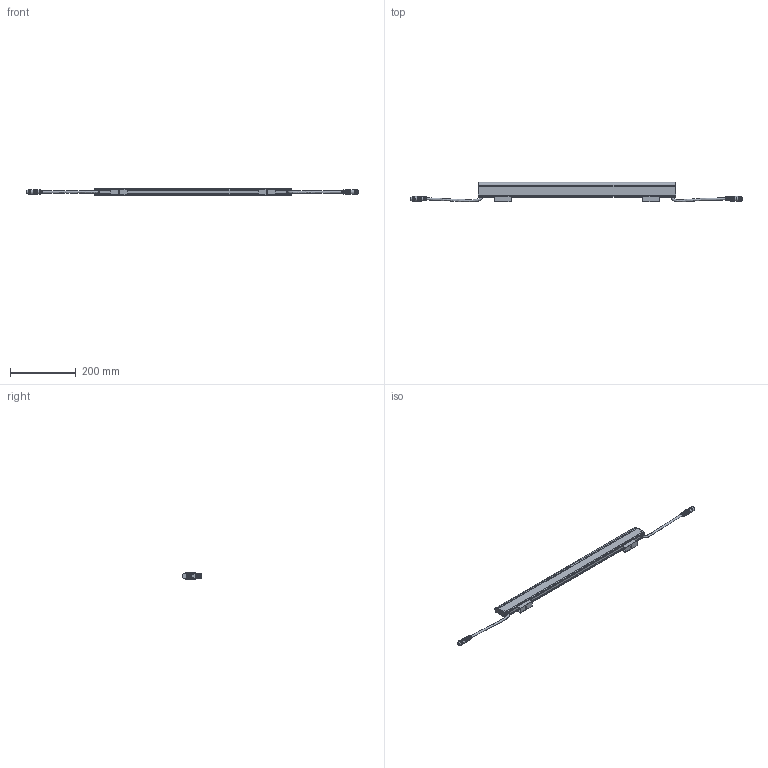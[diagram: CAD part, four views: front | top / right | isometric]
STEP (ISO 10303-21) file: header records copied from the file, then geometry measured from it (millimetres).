
FILE_DESCRIPTION (( 'STEP AP214' ), '1' );
FILE_NAME ('DiGi Linear V-Series L600 Round.STEP', '2025-07-22T11:41:59', ( '' ), ( '' ), 'SwSTEP 2.0', 'SolidWorks 2025', '' );
FILE_SCHEMA (( 'AUTOMOTIVE_DESIGN' ));
Length unit declared in the file: millimetre
Products named in the file (7): M12 3p Male; DiGi Linear V-serie - Clip; Counter sunk screw torx_M2x6; DiGi Linear V-Series L600 Round; DiGi Linear V-serie - Cabling_L600; DiGi Linear V-serie - Body_L600 Round; M12 3p Female
Assembly tree (10 placements, depth 2):
  DiGi Linear V-Series L600 Round
    DiGi Linear V-serie - Body_L600 Round
    DiGi Linear V-serie - Clip  x2
    M12 3p Male
    M12 3p Female
    DiGi Linear V-serie - Cabling_L600
    Counter sunk screw torx_M2x6  x4
Bounding box: 1007.4 x 59.99 x 18.3 mm (x, y, z)
Volume: 469630.3 mm3; surface area: 107149.2 mm2
Topology: 13 solids, 13 shells, 1274 faces, 3201 edges, 2000 vertices
Faces by surface type: plane 490, cylinder 349, bspline 184, torus 163, cone 80, sphere 8
Full cylindrical faces by diameter (mm): 2 x4, 2.4 x4, 3 x4, 6.5 x6, 9.7 x1, 10 x2, 10.8 x1, 12.3 x1, 14.3 x2
Entity records: 53678 total; most frequent: CARTESIAN_POINT 17164, ORIENTED_EDGE 5778, DIRECTION 4771, EDGE_CURVE 2889, VERTEX_POINT 1816, AXIS2_PLACEMENT_3D 1797, EDGE_LOOP 1269, FACE_OUTER_BOUND 1198
